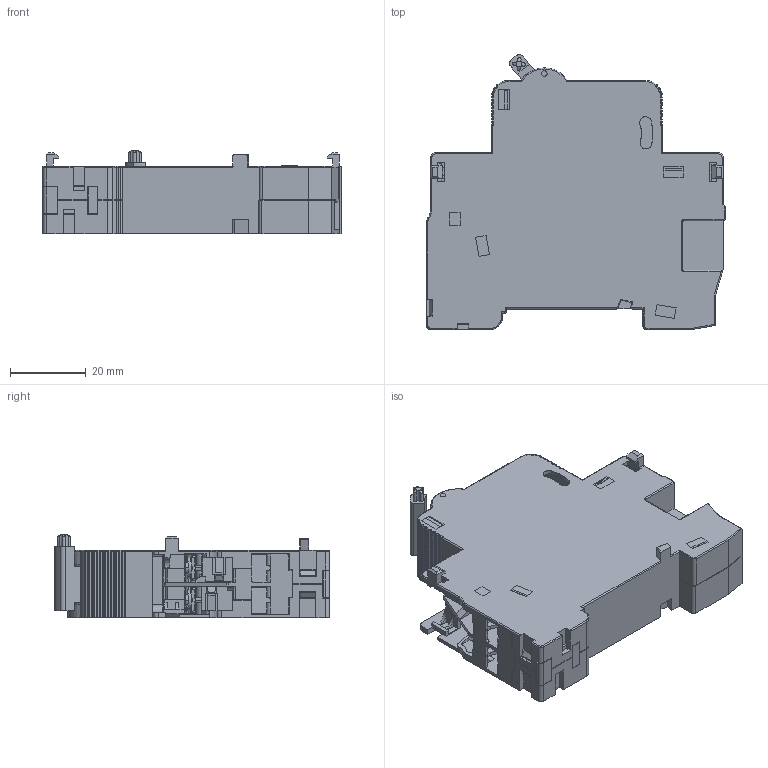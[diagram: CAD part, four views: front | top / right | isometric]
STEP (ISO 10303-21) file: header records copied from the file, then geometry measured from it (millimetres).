
FILE_DESCRIPTION((''),'2;1');
FILE_NAME('_1_-__SW00010001','2022-08-24T13:39:30',('wuhao1'),(''),'CREO PARAMETRIC BY PTC INC, 2020354','CREO PARAMETRIC BY PTC INC, 2020354','');
FILE_SCHEMA(('CONFIG_CONTROL_DESIGN'));
Products named in the file (1): _1_-__SW00010001
Bounding box: 78.7 x 72.48 x 22 mm (x, y, z)
Volume: 21450.1 mm3; surface area: 39055.7 mm2
Topology: 3 solids, 3 shells, 2222 faces, 6481 edges, 4226 vertices
Faces by surface type: plane 1504, cylinder 584, cone 43, sphere 38, torus 37, bspline 16
Entity records: 76236 total; most frequent: CARTESIAN_POINT 16912, ORIENTED_EDGE 12886, DIRECTION 11881, EDGE_CURVE 6443, VECTOR 4851, LINE 4851, VERTEX_POINT 4226, AXIS2_PLACEMENT_3D 3515
